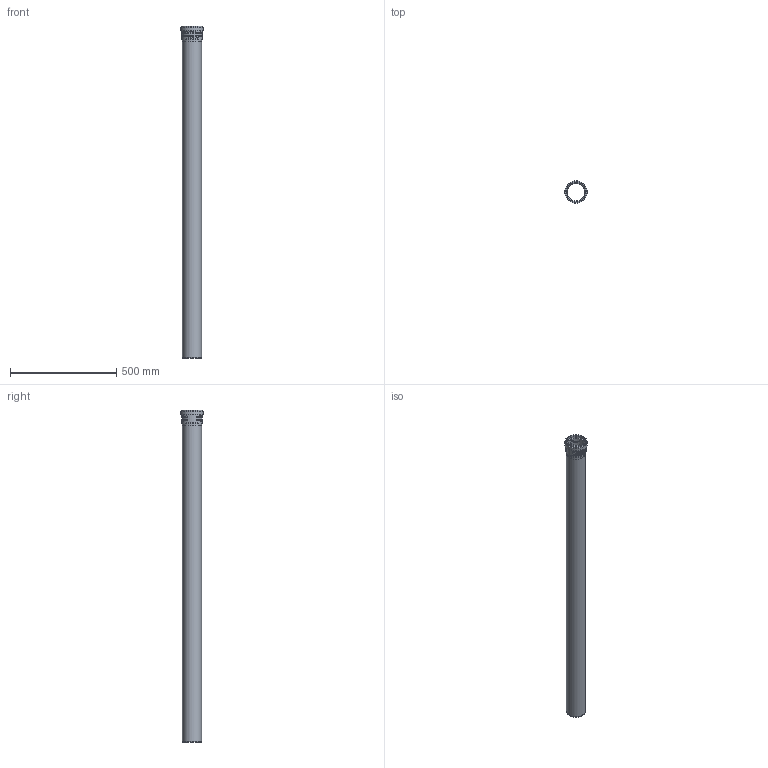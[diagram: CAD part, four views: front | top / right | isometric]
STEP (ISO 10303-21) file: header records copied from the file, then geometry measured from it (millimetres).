
FILE_DESCRIPTION(/* description */ (''),/* implementation_level */ '2;1');
FILE_NAME(/* name */ 'Z:\Geberit\Export\NewStep\390405.stp',/* time_stamp */ '2014-04-02T08:12:21+02:00',/* author */ ('ML'),/* organization */ (''),/* preprocessor_version */ 'ST-DEVELOPER v15.2',/* originating_system */ 'Autodesk Inventor 2014',/* authorisation */ '');
FILE_SCHEMA (('AUTOMOTIVE_DESIGN { 1 0 10303 214 3 1 1 }'));
Length unit declared in the file: millimetre
Products named in the file (3): 861435; 861584ohne; 390405
Bounding box: 105.4 x 105.4 x 1561 mm (x, y, z)
Volume: 1347708.2 mm3; surface area: 873695 mm2
Topology: 2 solids, 2 shells, 47 faces, 104 edges, 71 vertices
Faces by surface type: torus 24, cylinder 11, plane 10, cone 2
Full cylindrical faces by diameter (mm): 84 x2, 90.2 x2, 91 x2, 94.1 x1, 97.2 x2, 99.2 x1, 105.4 x1
Entity records: 2003 total; most frequent: CARTESIAN_POINT 962, DIRECTION 182, ORIENTED_EDGE 174, AXIS2_PLACEMENT_3D 91, EDGE_CURVE 87, EDGE_LOOP 78, VERTEX_POINT 71, STYLED_ITEM 49
